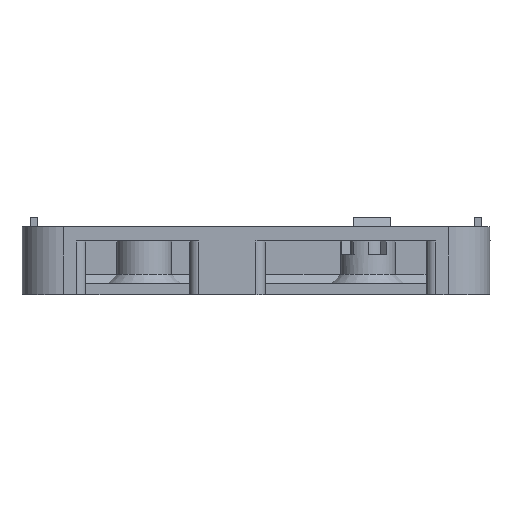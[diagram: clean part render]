
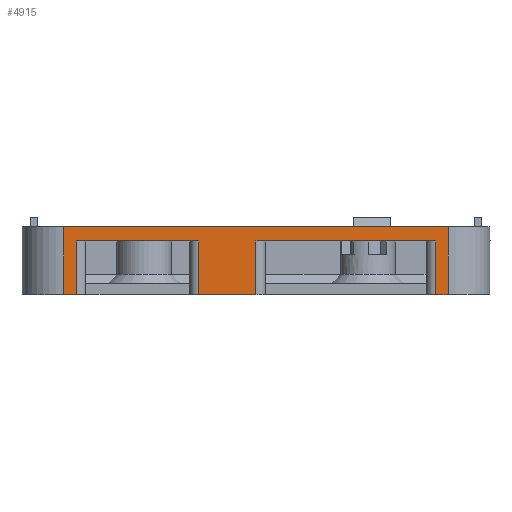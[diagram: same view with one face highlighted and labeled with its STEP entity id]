
A CAD part, left-side view. The second image highlights one B-rep face of the part: STEP entity #4915.
In plain terms, the highlighted planar face has unit normal (-1, 0, 0).
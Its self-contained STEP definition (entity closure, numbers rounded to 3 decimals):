
#68=PLANE('',#5241);
#244=LINE('',#7242,#788);
#248=LINE('',#7254,#792);
#252=LINE('',#7266,#796);
#313=LINE('',#7757,#857);
#314=LINE('',#7760,#858);
#315=LINE('',#7761,#859);
#316=LINE('',#7763,#860);
#317=LINE('',#7765,#861);
#318=LINE('',#7766,#862);
#319=LINE('',#7768,#863);
#320=LINE('',#7770,#864);
#321=LINE('',#7771,#865);
#788=VECTOR('',#5621,10.);
#792=VECTOR('',#5629,10.);
#796=VECTOR('',#5637,10.);
#857=VECTOR('',#5816,10.);
#858=VECTOR('',#5819,10.);
#859=VECTOR('',#5820,10.);
#860=VECTOR('',#5821,10.);
#861=VECTOR('',#5822,10.);
#862=VECTOR('',#5823,10.);
#863=VECTOR('',#5824,10.);
#864=VECTOR('',#5825,10.);
#865=VECTOR('',#5826,10.);
#1430=FACE_OUTER_BOUND('',#1701,.T.);
#1701=EDGE_LOOP('',(#3618,#3619,#3620,#3621,#3622,#3623,#3624,#3625,#3626,
#3627,#3628,#3629));
#2162=VERTEX_POINT('',#7239);
#2163=VERTEX_POINT('',#7241);
#2168=VERTEX_POINT('',#7251);
#2169=VERTEX_POINT('',#7253);
#2174=VERTEX_POINT('',#7263);
#2175=VERTEX_POINT('',#7265);
#2259=VERTEX_POINT('',#7755);
#2260=VERTEX_POINT('',#7759);
#2261=VERTEX_POINT('',#7762);
#2262=VERTEX_POINT('',#7764);
#2263=VERTEX_POINT('',#7767);
#2264=VERTEX_POINT('',#7769);
#2652=EDGE_CURVE('',#2163,#2162,#244,.T.);
#2658=EDGE_CURVE('',#2169,#2168,#248,.T.);
#2664=EDGE_CURVE('',#2175,#2174,#252,.T.);
#2782=EDGE_CURVE('',#2259,#2174,#313,.T.);
#2783=EDGE_CURVE('',#2259,#2260,#314,.T.);
#2784=EDGE_CURVE('',#2169,#2260,#315,.T.);
#2785=EDGE_CURVE('',#2261,#2168,#316,.T.);
#2786=EDGE_CURVE('',#2261,#2262,#317,.T.);
#2787=EDGE_CURVE('',#2163,#2262,#318,.T.);
#2788=EDGE_CURVE('',#2162,#2263,#319,.T.);
#2789=EDGE_CURVE('',#2263,#2264,#320,.T.);
#2790=EDGE_CURVE('',#2175,#2264,#321,.T.);
#3618=ORIENTED_EDGE('',*,*,#2782,.F.);
#3619=ORIENTED_EDGE('',*,*,#2783,.T.);
#3620=ORIENTED_EDGE('',*,*,#2784,.F.);
#3621=ORIENTED_EDGE('',*,*,#2658,.T.);
#3622=ORIENTED_EDGE('',*,*,#2785,.F.);
#3623=ORIENTED_EDGE('',*,*,#2786,.T.);
#3624=ORIENTED_EDGE('',*,*,#2787,.F.);
#3625=ORIENTED_EDGE('',*,*,#2652,.T.);
#3626=ORIENTED_EDGE('',*,*,#2788,.T.);
#3627=ORIENTED_EDGE('',*,*,#2789,.T.);
#3628=ORIENTED_EDGE('',*,*,#2790,.F.);
#3629=ORIENTED_EDGE('',*,*,#2664,.T.);
#4915=ADVANCED_FACE('',(#1430),#68,.T.);
#5241=AXIS2_PLACEMENT_3D('',#7758,#5817,#5818);
#5621=DIRECTION('',(0.,-1.,0.));
#5629=DIRECTION('',(0.,-1.,0.));
#5637=DIRECTION('',(0.,-1.,0.));
#5816=DIRECTION('',(0.,0.,-1.));
#5817=DIRECTION('center_axis',(-1.,0.,0.));
#5818=DIRECTION('ref_axis',(0.,-1.,0.));
#5819=DIRECTION('',(0.,-1.,0.));
#5820=DIRECTION('',(0.,0.,1.));
#5821=DIRECTION('',(0.,0.,-1.));
#5822=DIRECTION('',(0.,-1.,0.));
#5823=DIRECTION('',(0.,0.,1.));
#5824=DIRECTION('',(0.,0.,1.));
#5825=DIRECTION('',(0.,1.,0.));
#5826=DIRECTION('',(0.,0.,1.));
#7239=CARTESIAN_POINT('',(-2.05,2.5,-7.424));
#7241=CARTESIAN_POINT('',(-2.05,3.9,-7.424));
#7242=CARTESIAN_POINT('',(-2.05,44.5,-7.424));
#7251=CARTESIAN_POINT('',(-2.05,23.5,-7.424));
#7253=CARTESIAN_POINT('',(-2.05,29.725,-7.424));
#7254=CARTESIAN_POINT('',(-2.05,44.5,-7.424));
#7263=CARTESIAN_POINT('',(-2.05,43.075,-7.424));
#7265=CARTESIAN_POINT('',(-2.05,44.5,-7.424));
#7266=CARTESIAN_POINT('',(-2.05,44.5,-7.424));
#7755=CARTESIAN_POINT('',(-2.05,43.075,-1.574));
#7757=CARTESIAN_POINT('',(-2.05,43.075,-7.424));
#7758=CARTESIAN_POINT('Origin',(-2.05,44.5,-7.424));
#7759=CARTESIAN_POINT('',(-2.05,29.725,-1.574));
#7760=CARTESIAN_POINT('',(-2.05,43.287,-1.574));
#7761=CARTESIAN_POINT('',(-2.05,29.725,-4.499));
#7762=CARTESIAN_POINT('',(-2.05,23.5,-1.574));
#7763=CARTESIAN_POINT('',(-2.05,23.5,-7.424));
#7764=CARTESIAN_POINT('',(-2.05,3.9,-1.574));
#7765=CARTESIAN_POINT('',(-2.05,33.5,-1.574));
#7766=CARTESIAN_POINT('',(-2.05,3.9,-4.499));
#7767=CARTESIAN_POINT('',(-2.05,2.5,0.));
#7768=CARTESIAN_POINT('',(-2.05,2.5,-7.424));
#7769=CARTESIAN_POINT('',(-2.05,44.5,0.));
#7770=CARTESIAN_POINT('',(-2.05,34.,0.));
#7771=CARTESIAN_POINT('',(-2.05,44.5,-7.424));
